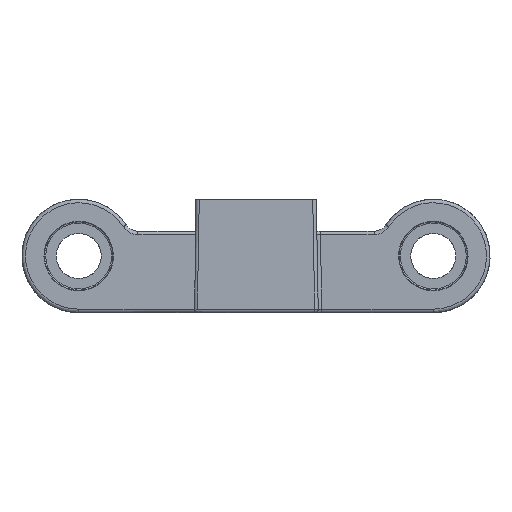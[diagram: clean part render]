
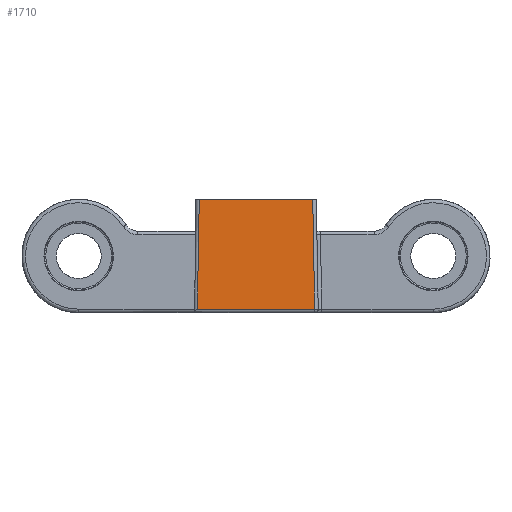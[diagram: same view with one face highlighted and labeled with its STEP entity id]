
A CAD part, front view. The second image highlights one B-rep face of the part: STEP entity #1710.
In plain terms, the highlighted planar face has unit normal (0, -1, 0.018).
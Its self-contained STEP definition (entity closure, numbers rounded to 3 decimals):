
#1408=PLANE('',#21927);
#1710=ADVANCED_FACE('',(#3515),#1408,.T.);
#3515=FACE_OUTER_BOUND('',#4770,.T.);
#4770=EDGE_LOOP('',(#10937,#10938,#10939,#10940));
#6460=LINE('',#33216,#7642);
#6461=LINE('',#33219,#7643);
#6462=LINE('',#33221,#7644);
#6463=LINE('',#33223,#7645);
#7642=VECTOR('',#25827,1.);
#7643=VECTOR('',#25828,1.);
#7644=VECTOR('',#25829,1.);
#7645=VECTOR('',#25830,1.);
#10937=ORIENTED_EDGE('',*,*,#18981,.T.);
#10938=ORIENTED_EDGE('',*,*,#18982,.T.);
#10939=ORIENTED_EDGE('',*,*,#18983,.T.);
#10940=ORIENTED_EDGE('',*,*,#18984,.T.);
#16885=VERTEX_POINT('',#33217);
#16886=VERTEX_POINT('',#33218);
#16887=VERTEX_POINT('',#33220);
#16888=VERTEX_POINT('',#33222);
#18981=EDGE_CURVE('',#16885,#16886,#6460,.T.);
#18982=EDGE_CURVE('',#16886,#16887,#6461,.T.);
#18983=EDGE_CURVE('',#16887,#16888,#6462,.T.);
#18984=EDGE_CURVE('',#16888,#16885,#6463,.T.);
#21927=AXIS2_PLACEMENT_3D('',#33224,#25831,#25832);
#25827=DIRECTION('',(-1.,0.,0.));
#25828=DIRECTION('',(-0.017,-0.017,-1.));
#25829=DIRECTION('',(1.,0.,0.));
#25830=DIRECTION('',(-0.017,0.017,1.));
#25831=DIRECTION('',(0.,-1.,0.017));
#25832=DIRECTION('',(0.,0.017,1.));
#33216=CARTESIAN_POINT('',(58.501,-99.721,8.));
#33217=CARTESIAN_POINT('',(58.001,-99.721,8.));
#33218=CARTESIAN_POINT('',(41.999,-99.721,8.));
#33219=CARTESIAN_POINT('',(41.729,-99.991,-7.5));
#33220=CARTESIAN_POINT('',(41.729,-99.991,-7.491));
#33221=CARTESIAN_POINT('',(58.78,-99.991,-7.491));
#33222=CARTESIAN_POINT('',(58.271,-99.991,-7.491));
#33223=CARTESIAN_POINT('',(58.001,-99.721,7.991));
#33224=CARTESIAN_POINT('',(50.,-100.,-8.));
